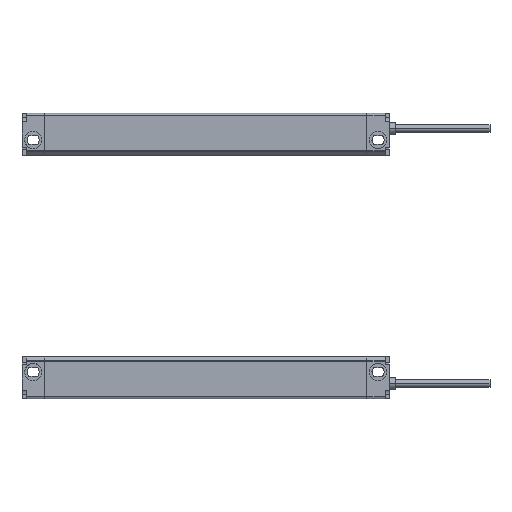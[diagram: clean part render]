
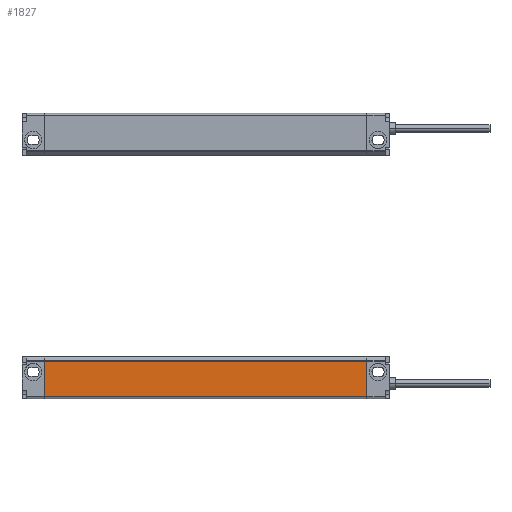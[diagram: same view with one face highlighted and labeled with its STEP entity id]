
A CAD part, left-side view. The second image highlights one B-rep face of the part: STEP entity #1827.
In plain terms, the highlighted planar face has unit normal (-1, 0, 0).
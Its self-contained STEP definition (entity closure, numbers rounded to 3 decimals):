
#634 = DIRECTION ( 'NONE',  ( 0., 0., 1. ) ) ;
#726 = EDGE_CURVE ( 'NONE', #9913, #8636, #4034, .T. ) ;
#734 = VECTOR ( 'NONE', #8034, 1000. ) ;
#1191 = VECTOR ( 'NONE', #8865, 1000. ) ;
#1211 = ORIENTED_EDGE ( 'NONE', *, *, #2093, .T. ) ;
#1302 = ORIENTED_EDGE ( 'NONE', *, *, #10303, .T. ) ;
#1462 = DIRECTION ( 'NONE',  ( 0., 0., 1. ) ) ;
#1827 = ADVANCED_FACE ( 'NONE', ( #7268 ), #2160, .T. ) ;
#2093 = EDGE_CURVE ( 'NONE', #2600, #10156, #9317, .T. ) ;
#2120 = LINE ( 'NONE', #9757, #5945 ) ;
#2160 = PLANE ( 'NONE',  #4233 ) ;
#2600 = VERTEX_POINT ( 'NONE', #9755 ) ;
#2613 = ORIENTED_EDGE ( 'NONE', *, *, #726, .F. ) ;
#2754 = CARTESIAN_POINT ( 'NONE',  ( -12.5, 0., 8.293 ) ) ;
#3081 = CARTESIAN_POINT ( 'NONE',  ( -12.5, 0., -9.2 ) ) ;
#3158 = LINE ( 'NONE', #6273, #1191 ) ;
#3260 = DIRECTION ( 'NONE',  ( -1., 0., 0. ) ) ;
#3959 = CARTESIAN_POINT ( 'NONE',  ( -12.5, -160., -9.2 ) ) ;
#4034 = LINE ( 'NONE', #3081, #9446 ) ;
#4233 = AXIS2_PLACEMENT_3D ( 'NONE', #3959, #3260, #1462 ) ;
#4721 = DIRECTION ( 'NONE',  ( 0., 1., 0. ) ) ;
#4730 = CARTESIAN_POINT ( 'NONE',  ( -12.5, -160., -9.2 ) ) ;
#5102 = CARTESIAN_POINT ( 'NONE',  ( -12.5, -160., 8.293 ) ) ;
#5172 = EDGE_LOOP ( 'NONE', ( #2613, #6092, #1211, #1302 ) ) ;
#5945 = VECTOR ( 'NONE', #4721, 1000. ) ;
#6092 = ORIENTED_EDGE ( 'NONE', *, *, #9395, .F. ) ;
#6273 = CARTESIAN_POINT ( 'NONE',  ( -12.5, -160., 8.293 ) ) ;
#7268 = FACE_OUTER_BOUND ( 'NONE', #5172, .T. ) ;
#8034 = DIRECTION ( 'NONE',  ( 0., 0., 1. ) ) ;
#8636 = VERTEX_POINT ( 'NONE', #2754 ) ;
#8865 = DIRECTION ( 'NONE',  ( 0., 1., 0. ) ) ;
#9111 = CARTESIAN_POINT ( 'NONE',  ( -12.5, 0., -9.2 ) ) ;
#9317 = LINE ( 'NONE', #4730, #734 ) ;
#9395 = EDGE_CURVE ( 'NONE', #2600, #9913, #2120, .T. ) ;
#9446 = VECTOR ( 'NONE', #634, 1000. ) ;
#9755 = CARTESIAN_POINT ( 'NONE',  ( -12.5, -160., -9.2 ) ) ;
#9757 = CARTESIAN_POINT ( 'NONE',  ( -12.5, -160., -9.2 ) ) ;
#9913 = VERTEX_POINT ( 'NONE', #9111 ) ;
#10156 = VERTEX_POINT ( 'NONE', #5102 ) ;
#10303 = EDGE_CURVE ( 'NONE', #10156, #8636, #3158, .T. ) ;
